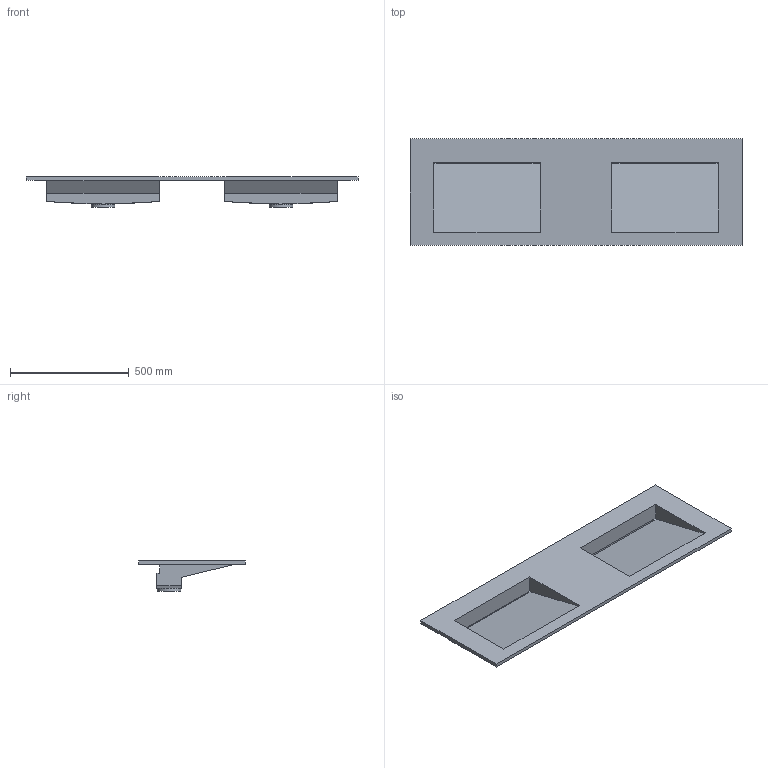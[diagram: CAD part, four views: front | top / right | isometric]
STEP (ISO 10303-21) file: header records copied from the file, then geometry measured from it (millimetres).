
FILE_DESCRIPTION(/* description */ (''),/* implementation_level */ '2;1');
FILE_NAME(/* name */ 'Cabinet Basin 1400D.stp',/* time_stamp */ '2025-10-25T10:49:51+08:00',/* author */ (''),/* organization */ (''),/* preprocessor_version */ 'ST-DEVELOPER v20',/* originating_system */ 'SIEMENS PLM Software NX2412.4001',/* authorisation */ '');
FILE_SCHEMA (('AUTOMOTIVE_DESIGN { 1 0 10303 214 3 1 1 1 }'));
Length unit declared in the file: millimetre
Products named in the file (1): Cabinet Basin 1400D
Bounding box: 1400 x 450 x 127 mm (x, y, z)
Volume: 11470677.9 mm3; surface area: 1878740.5 mm2
Topology: 1 solids, 1 shells, 85 faces, 228 edges, 146 vertices
Faces by surface type: plane 75, cone 6, cylinder 4
Full cylindrical faces by diameter (mm): 45 x2, 100 x2
Entity records: 2630 total; most frequent: CARTESIAN_POINT 570, ORIENTED_EDGE 428, DIRECTION 380, EDGE_CURVE 214, LINE 188, VECTOR 188, VERTEX_POINT 142, EDGE_LOOP 100
